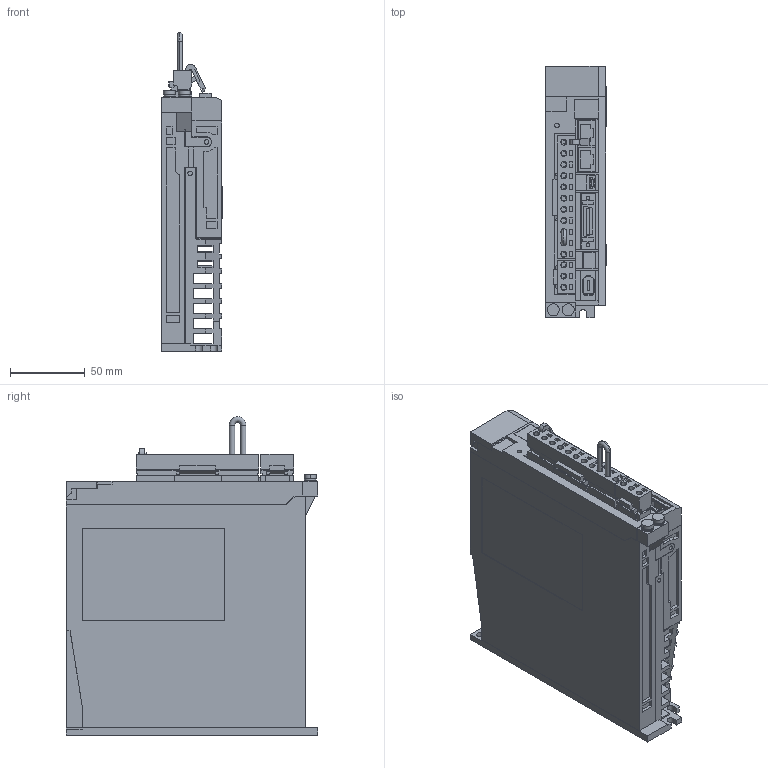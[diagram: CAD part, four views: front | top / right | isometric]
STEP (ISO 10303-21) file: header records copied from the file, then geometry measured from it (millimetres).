
FILE_DESCRIPTION (( 'STEP AP203' ), '1' );
FILE_NAME ('sgdxs_2r8a__a.STEP', '2021-02-09T11:57:08', ( 'YMANOUCHI' ), ( 'TAKUMI-Engniaring' ), 'SwSTEP 2.0', 'SolidWorks 2005204', '' );
FILE_SCHEMA (( 'CONFIG_CONTROL_DESIGN' ));
Products named in the file (11): sgdxs_2r8a__a_cable; sgdxs_2r8a__a_connector_1; sgdxs_2r8a__a_cover; sgdxs_2r8a__a; sgdxs_2r8a__a_base; sgdxs_2r8a__a_connector; sgdxs_2r8a__a_connector_2; sgdxs_2r8a__a_pin; sgdxs_2r8a__a_cover2; sgdxs_2r8a__a_connector_3; sgdxs_2r8a__a_cover3
Assembly tree (10 placements, depth 3):
  sgdxs_2r8a__a
    sgdxs_2r8a__a_cover2
    sgdxs_2r8a__a_cover3
    sgdxs_2r8a__a_base
    sgdxs_2r8a__a_cover
    sgdxs_2r8a__a_connector
      sgdxs_2r8a__a_pin
      sgdxs_2r8a__a_cable
      sgdxs_2r8a__a_connector_2
    sgdxs_2r8a__a_connector_1
    sgdxs_2r8a__a_connector_3
Bounding box: 40.5 x 168 x 213 mm (x, y, z)
Volume: 935297.6 mm3; surface area: 168679.5 mm2
Topology: 9 solids, 9 shells, 1615 faces, 4331 edges, 2859 vertices
Faces by surface type: plane 1477, cylinder 136, torus 2
Entity records: 50772 total; most frequent: CARTESIAN_POINT 8819, ORIENTED_EDGE 8662, DIRECTION 7867, EDGE_CURVE 4331, VECTOR 4053, LINE 4053, VERTEX_POINT 2859, AXIS2_PLACEMENT_3D 1907
